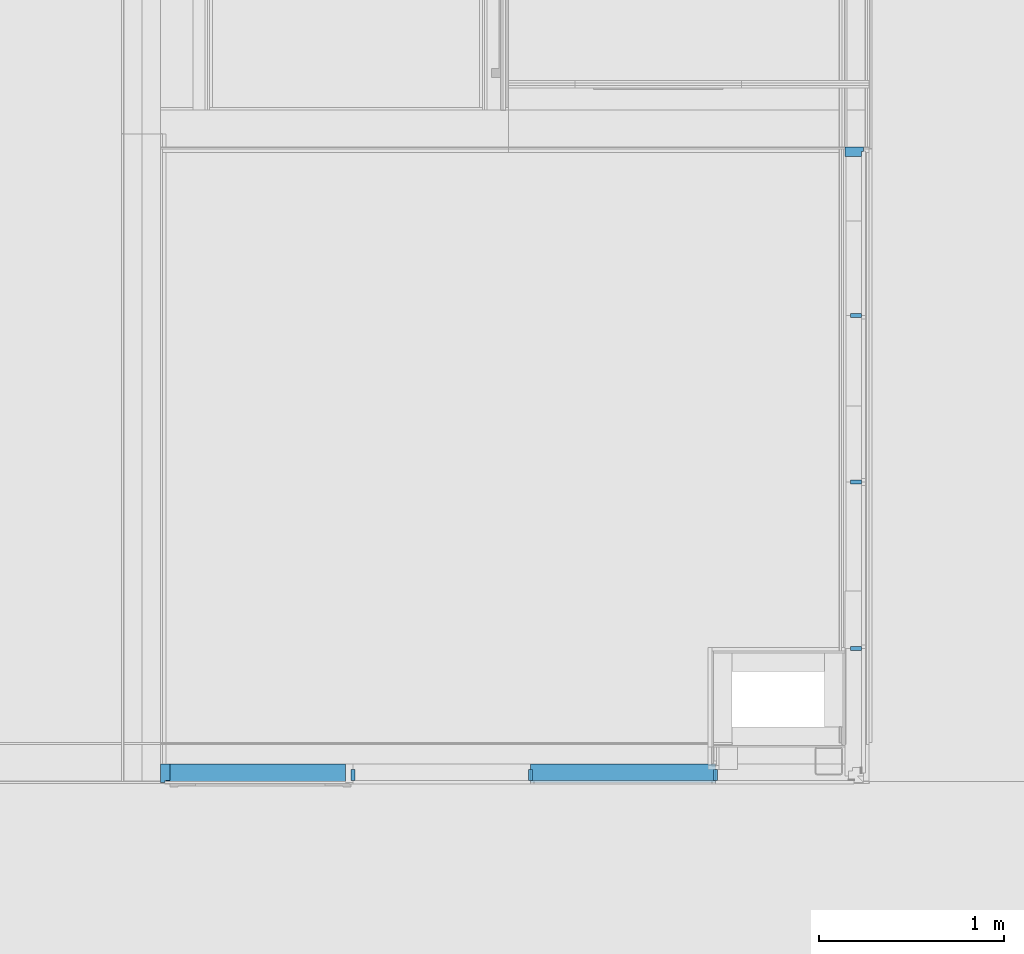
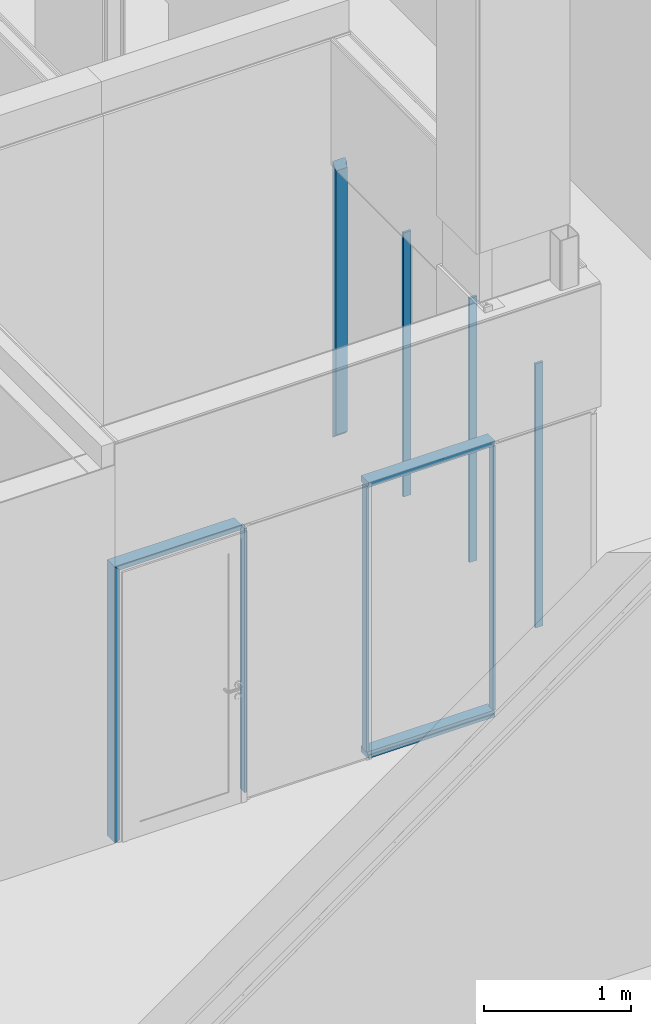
# One storey, part 11 of 139: 11 members, 1 element without a shape of its own.
"""IFC2X3 building model written with IfcOpenShell, lengths in millimetres."""

from ifc_helpers import new_model, entity, si_unit, converted_unit, derived_unit, money_unit, direction, frame, origin_with_axes, place, context, subcontext, project, spatial, faceted_brep, source, transform, mapped, material, type_object, element, aggregate, save


model = new_model("IFC2X3")

# Units and contexts
model_context = context("Model", 3, precision=0.01, world=origin_with_axes(), true_north=direction((0.0, 1.0)))
body_context = subcontext(model_context, "Body", "Model", "MODEL_VIEW")
ifc_project = project(units=[si_unit("LENGTHUNIT", "METRE", prefix="MILLI"), si_unit("AREAUNIT", "SQUARE_METRE"), si_unit("VOLUMEUNIT", "CUBIC_METRE"), converted_unit("PLANEANGLEUNIT", "DEGREE", entity("IfcPlaneAngleMeasure", 0.0174532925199), si_unit("PLANEANGLEUNIT", "RADIAN"), dimensions=[0, 0, 0, 0, 0, 0, 0]), money_unit("EUR"), converted_unit("TIMEUNIT", "Year", entity("IfcTimeMeasure", 31556926.0), si_unit("TIMEUNIT", "SECOND"), dimensions=[0, 0, 1, 0, 0, 0, 0]), si_unit("MASSUNIT", "GRAM", prefix="KILO"), si_unit("THERMODYNAMICTEMPERATUREUNIT", "DEGREE_CELSIUS"), si_unit("LUMINOUSINTENSITYUNIT", "LUMEN"), si_unit("ENERGYUNIT", "JOULE", prefix="MEGA"), derived_unit("THERMALCONDUCTANCEUNIT", [(si_unit("POWERUNIT", "WATT"), 1), (si_unit("LENGTHUNIT", "METRE"), -1), (si_unit("THERMODYNAMICTEMPERATUREUNIT", "KELVIN"), -1)]), derived_unit("SPECIFICHEATCAPACITYUNIT", [(si_unit("ENERGYUNIT", "JOULE"), 1), (si_unit("MASSUNIT", "GRAM", prefix="KILO"), -1), (si_unit("THERMODYNAMICTEMPERATUREUNIT", "KELVIN"), -1)]), derived_unit("MASSDENSITYUNIT", [(si_unit("MASSUNIT", "GRAM", prefix="KILO"), 1), (si_unit("VOLUMEUNIT", "CUBIC_METRE"), -1)])], contexts=[model_context])

# Site, building, storey
site_placement = place(None, origin_with_axes())
site = spatial("IfcSite", under=ifc_project, at=site_placement, Name="Kolde pst 67a", CompositionType="ELEMENT")
building_placement = place(site_placement, origin_with_axes())
building = spatial("IfcBuilding", under=site, at=building_placement, Name="Riigigümnaasium", CompositionType="ELEMENT")
storey_placement = place(building_placement, frame((0.0, 0.0, 4600.0), z_axis=(0.0, 0.0, 1.0), x_axis=(1.0, 0.0, 0.0)))
storey = spatial("IfcBuildingStorey", under=building, at=storey_placement, Name="2. korrus", CompositionType="ELEMENT", Elevation=4600.0)

# Curtain wall, members
curtain_wall_type = type_object("IfcCurtainWallType", Name="Curtain Wall Type", PredefinedType="NOTDEFINED")
curtain_wall_placement = place(storey_placement, frame((71469.9681221, 10694.9619432, -0.000132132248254), z_axis=(0.0, 0.0, 1.0), x_axis=(1.0, 0.0, 0.0)))
curtain_wall = element("IfcCurtainWall", 1, at=curtain_wall_placement, inside=storey, type_object=curtain_wall_type, Name="KLAASSEIN")
ifc_material = material(Name="_GENEERILINE MATERJAL")
member_type_1 = type_object("IfcMemberType", Name="Boundary Frame 50 x 100", PredefinedType="MEMBER")
shared_shape_1 = source(origin_with_axes(), body_context, "Body", "Brep", [
    faceted_brep([(50.0, -10.0, 0.0), (50.0, -10.0, 1000.0), (50.0, -100.0, 1000.0), (50.0, -100.0, 0.0), (25.0, -10.0, 1000.0), (25.0, -10.0, 0.0), (25.0, 0.0, 1000.0), (0.0, 0.0, 1000.0), (0.0, -100.0, 1000.0), (0.0, -100.0, 0.0), (0.0, 0.0, 0.0), (25.0, 0.0, 0.0)], [[[0, 1, 2, 3]], [[4, 1, 0, 5]], [[4, 6, 7, 8, 2, 1]], [[3, 2, 8, 9]], [[5, 0, 3, 9, 10, 11]], [[11, 6, 4, 5]], [[6, 11, 10, 7]], [[9, 8, 7, 10]]]),
])
member_1_placement = place(curtain_wall_placement, frame((480.031166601, 8.05597366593e-07, 2.48529836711e-05), z_axis=(1.0, 1.67822022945e-09, 0.0), x_axis=(0.0, 0.0, 1.0)))
member_1 = element("IfcMember", 2, at=member_1_placement, type_object=member_type_1, material=ifc_material, Name="RF RAAM SERV-180", ObjectType="MEMBER", context=body_context, shape_type="MappedRepresentation", body=[
    mapped(shared_shape_1, transform((0.0, 0.0, 0.0))),
])
member_type_2 = type_object("IfcMemberType", Name="Mullion Frame 20 x 70", PredefinedType="MEMBER")
shared_shape_2 = source(origin_with_axes(), body_context, "Body", "Brep", [
    faceted_brep([(0.0, -10.0, 50.0), (-10.0, -10.0, 50.0), (-10.0, -10.0, 2250.00015753), (0.0, -10.0, 2250.00015753), (10.0, -10.0, 2250.00015753), (10.0, -10.0, 50.0), (10.0, -70.0, 50.0), (-10.0, -70.0, 50.0), (-10.0, -70.0, 2250.00015753), (10.0, -70.0, 2250.00015753)], [[[0, 1, 2, 3, 4, 5]], [[1, 0, 5, 6, 7]], [[2, 1, 7, 8]], [[3, 2, 8, 9, 4]], [[4, 9, 6, 5]], [[8, 7, 6, 9]]]),
])
member_2_placement = place(curtain_wall_placement, frame((480.031166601, 8.05597366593e-07, 2.48529836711e-05), z_axis=(0.0, 0.0, 1.0), x_axis=(-1.0, -1.67821934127e-09, 0.0)))
member_2 = element("IfcMember", 3, at=member_2_placement, type_object=member_type_2, material=ifc_material, Name="RF RAAM VERT-302", ObjectType="MEMBER", context=body_context, shape_type="MappedRepresentation", body=[
    mapped(shared_shape_2, transform((0.0, 0.0, 0.0))),
])
member_3_placement = place(curtain_wall_placement, frame((1480.0311666, 2.48381759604e-06, 2.48529836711e-05), z_axis=(0.0, 0.0, 1.0), x_axis=(-1.0, -1.67821983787e-09, 0.0)))
member_3 = element("IfcMember", 4, at=member_3_placement, type_object=member_type_2, material=ifc_material, Name="RF RAAM VERT-302", ObjectType="MEMBER", context=body_context, shape_type="MappedRepresentation", body=[
    mapped(shared_shape_2, transform((0.0, 0.0, 0.0))),
])
member_4_placement = place(curtain_wall_placement, frame((2279.75189028, 723.343698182, 0.0), z_axis=(0.0, 0.0, 1.0), x_axis=(0.0, -1.0, 0.0)))
member_4 = element("IfcMember", 5, at=member_4_placement, type_object=member_type_2, material=ifc_material, Name="RF RAAM VERT-317", ObjectType="MEMBER", context=body_context, shape_type="MappedRepresentation", body=[
    mapped(shared_shape_2, transform((0.0, 0.0, 0.0))),
])
member_5_placement = place(curtain_wall_placement, frame((2279.75189028, 1623.85546847, 0.0), z_axis=(0.0, 0.0, 1.0), x_axis=(0.0, -1.0, 0.0)))
member_5 = element("IfcMember", 6, at=member_5_placement, type_object=member_type_2, material=ifc_material, Name="RF RAAM VERT-321", ObjectType="MEMBER", context=body_context, shape_type="MappedRepresentation", body=[
    mapped(shared_shape_2, transform((0.0, 0.0, 0.0))),
])
member_6_placement = place(curtain_wall_placement, frame((2279.75189028, 2523.85547873, 0.0), z_axis=(0.0, 0.0, 1.0), x_axis=(0.0, -1.0, 0.0)))
member_6 = element("IfcMember", 7, at=member_6_placement, type_object=member_type_2, material=ifc_material, Name="RF RAAM VERT-322", ObjectType="MEMBER", context=body_context, shape_type="MappedRepresentation", body=[
    mapped(shared_shape_2, transform((0.0, 0.0, 0.0))),
])
member_7_placement = place(curtain_wall_placement, frame((-480.031166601, -8.05597366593e-07, 2.48529836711e-05), z_axis=(0.0, 0.0, 1.0), x_axis=(-1.0, -1.67821927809e-09, 0.0)))
member_7 = element("IfcMember", 8, at=member_7_placement, type_object=member_type_2, material=ifc_material, Name="RF RAAM VERT-323", ObjectType="MEMBER", context=body_context, shape_type="MappedRepresentation", body=[
    mapped(shared_shape_2, transform((0.0, 0.0, 0.0))),
])
shared_shape_3 = source(origin_with_axes(), body_context, "Body", "Brep", [
    faceted_brep([(-50.0, -10.0, 0.0), (-50.0, -100.0, 0.0), (-50.0, -100.0, 1000.0), (-50.0, -10.0, 1000.0), (-25.0, -10.0, 0.0), (-25.0, 0.0, 0.0), (0.0, 0.0, 0.0), (0.0, -100.0, 0.0), (0.0, -100.0, 1000.0), (-25.0, -10.0, 1000.0), (0.0, 0.0, 1000.0), (-25.0, 0.0, 1000.0)], [[[0, 1, 2, 3]], [[4, 5, 6, 7, 1, 0]], [[1, 7, 8, 2]], [[9, 3, 2, 8, 10, 11]], [[9, 4, 0, 3]], [[5, 4, 9, 11]], [[11, 10, 6, 5]], [[7, 6, 10, 8]]]),
])
member_8_placement = place(curtain_wall_placement, frame((480.031166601, 8.05597366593e-07, 2300.00018238), z_axis=(1.0, 1.67822022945e-09, 0.0), x_axis=(0.0, 0.0, 1.0)))
member_8 = element("IfcMember", 9, at=member_8_placement, type_object=member_type_1, material=ifc_material, Name="RF RAAM SERV-184", ObjectType="MEMBER", context=body_context, shape_type="MappedRepresentation", body=[
    mapped(shared_shape_3, transform((0.0, 0.0, 0.0))),
])
shared_shape_4 = source(origin_with_axes(), body_context, "Body", "Brep", [
    faceted_brep([(-50.0, -10.0, 0.0), (-50.0, -100.0, 0.0), (-50.0, -100.0, 2250.00015753), (-50.0, -10.0, 2250.00015753), (-25.0, -10.0, 0.0), (-25.0, 0.0, 0.0), (0.0, 0.0, 0.0), (0.0, -100.0, 0.0), (0.0, -100.0, 2300.00015753), (-25.0, -10.0, 2275.00015753), (0.0, 0.0, 2300.00015753), (-25.0, 0.0, 2275.00015753)], [[[0, 1, 2, 3]], [[4, 5, 6, 7, 1, 0]], [[1, 7, 8, 2]], [[9, 3, 2, 8, 10, 11]], [[9, 4, 0, 3]], [[5, 4, 9, 11]], [[11, 10, 6, 5]], [[7, 6, 10, 8]]]),
])
member_9_placement = place(curtain_wall_placement, frame((-1519.96890869, -2.55084131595e-06, 2.48529836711e-05), z_axis=(0.0, 0.0, 1.0), x_axis=(-1.0, -1.67822010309e-09, 0.0)))
member_9 = element("IfcMember", 10, at=member_9_placement, type_object=member_type_1, material=ifc_material, Name="RF RAAM SERV-177", ObjectType="MEMBER", context=body_context, shape_type="MappedRepresentation", body=[
    mapped(shared_shape_4, transform((0.0, 0.0, 0.0))),
])
shared_shape_5 = source(origin_with_axes(), body_context, "Body", "Brep", [
    faceted_brep([(-50.0, -10.0, 50.0), (-50.0, -100.0, 50.0), (-50.0, -100.0, 1000.0000753), (-50.0, -10.0, 1000.0000753), (-25.0, -10.0, 25.0), (-25.0, 0.0, 25.0), (0.0, 0.0, 0.0), (0.0, -100.0, 0.0), (0.0, -100.0, 1000.0000753), (-25.0, -10.0, 1000.0000753), (0.0, 0.0, 1000.0000753), (-25.0, 0.0, 1000.0000753)], [[[0, 1, 2, 3]], [[4, 5, 6, 7, 1, 0]], [[2, 1, 7, 8]], [[9, 3, 2, 8, 10, 11]], [[9, 4, 0, 3]], [[5, 4, 9, 11]], [[11, 10, 6, 5]], [[8, 7, 6, 10]]]),
])
member_10_placement = place(curtain_wall_placement, frame((-1519.96890869, -2.55084131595e-06, 2300.00018238), z_axis=(1.0, 1.67822010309e-09, 0.0), x_axis=(0.0, 0.0, 1.0)))
member_10 = element("IfcMember", 11, at=member_10_placement, type_object=member_type_1, material=ifc_material, Name="RF RAAM SERV-186", ObjectType="MEMBER", context=body_context, shape_type="MappedRepresentation", body=[
    mapped(shared_shape_5, transform((0.0, 0.0, 0.0))),
])
shared_shape_6 = source(origin_with_axes(), body_context, "Body", "Brep", [
    faceted_brep([(50.0, -10.0, 50.0), (50.0, -10.0, 2250.00014524), (50.0, -100.0, 2250.00014524), (50.0, -100.0, 50.0), (25.0, -10.0, 2275.00014524), (25.0, -10.0, 25.0), (25.0, 0.0, 2275.00014524), (0.0, 0.0, 2300.00014524), (0.0, -100.0, 2300.00014524), (0.0, -100.0, 0.0), (0.0, 0.0, 0.0), (25.0, 0.0, 25.0)], [[[0, 1, 2, 3]], [[4, 1, 0, 5]], [[4, 6, 7, 8, 2, 1]], [[2, 8, 9, 3]], [[5, 0, 3, 9, 10, 11]], [[11, 6, 4, 5]], [[6, 11, 10, 7]], [[8, 7, 10, 9]]]),
])
member_11_placement = place(curtain_wall_placement, frame((2279.75189028, 3434.40341422, 0.0), z_axis=(0.0, 0.0, 1.0), x_axis=(0.0, -1.0, 0.0)))
member_11 = element("IfcMember", 12, at=member_11_placement, type_object=member_type_1, material=ifc_material, Name="RF RAAM SERV-193", ObjectType="MEMBER", context=body_context, shape_type="MappedRepresentation", body=[
    mapped(shared_shape_6, transform((0.0, 0.0, 0.0))),
])
aggregate(curtain_wall, [member_1, member_2, member_8, member_3, member_9, member_10, member_11, member_4, member_5, member_6, member_7])

save(model, "model.ifc")
